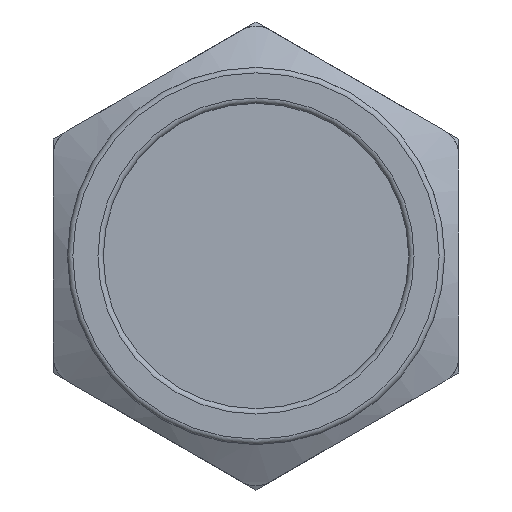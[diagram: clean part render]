
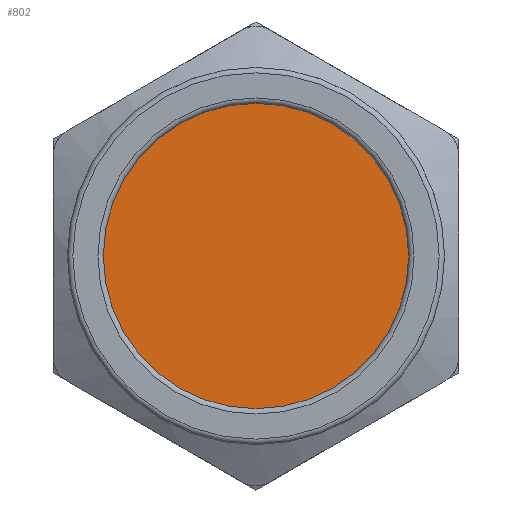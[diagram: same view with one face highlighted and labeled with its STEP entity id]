
A CAD part, left-side view. The second image highlights one B-rep face of the part: STEP entity #802.
In plain terms, the highlighted planar face has unit normal (-1, 0, 0).
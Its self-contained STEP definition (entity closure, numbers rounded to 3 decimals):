
#30=PLANE('',#891);
#63=CIRCLE('',#883,5.65);
#64=CIRCLE('',#884,5.65);
#139=FACE_OUTER_BOUND('',#185,.T.);
#185=EDGE_LOOP('',(#652,#653));
#365=VERTEX_POINT('',#1423);
#366=VERTEX_POINT('',#1425);
#469=EDGE_CURVE('',#365,#366,#63,.T.);
#470=EDGE_CURVE('',#366,#365,#64,.T.);
#652=ORIENTED_EDGE('',*,*,#470,.F.);
#653=ORIENTED_EDGE('',*,*,#469,.F.);
#802=ADVANCED_FACE('',(#139),#30,.T.);
#883=AXIS2_PLACEMENT_3D('',#1426,#1036,#1037);
#884=AXIS2_PLACEMENT_3D('',#1427,#1038,#1039);
#891=AXIS2_PLACEMENT_3D('',#1438,#1053,#1054);
#1036=DIRECTION('center_axis',(1.,0.,0.));
#1037=DIRECTION('ref_axis',(0.,0.,1.));
#1038=DIRECTION('center_axis',(1.,0.,0.));
#1039=DIRECTION('ref_axis',(0.,0.,1.));
#1053=DIRECTION('center_axis',(-1.,0.,0.));
#1054=DIRECTION('ref_axis',(0.,0.,1.));
#1423=CARTESIAN_POINT('',(-17.,0.,-5.65));
#1425=CARTESIAN_POINT('',(-17.,0.,5.65));
#1426=CARTESIAN_POINT('Origin',(-17.,0.,0.));
#1427=CARTESIAN_POINT('Origin',(-17.,0.,0.));
#1438=CARTESIAN_POINT('Origin',(-17.,0.,0.));
